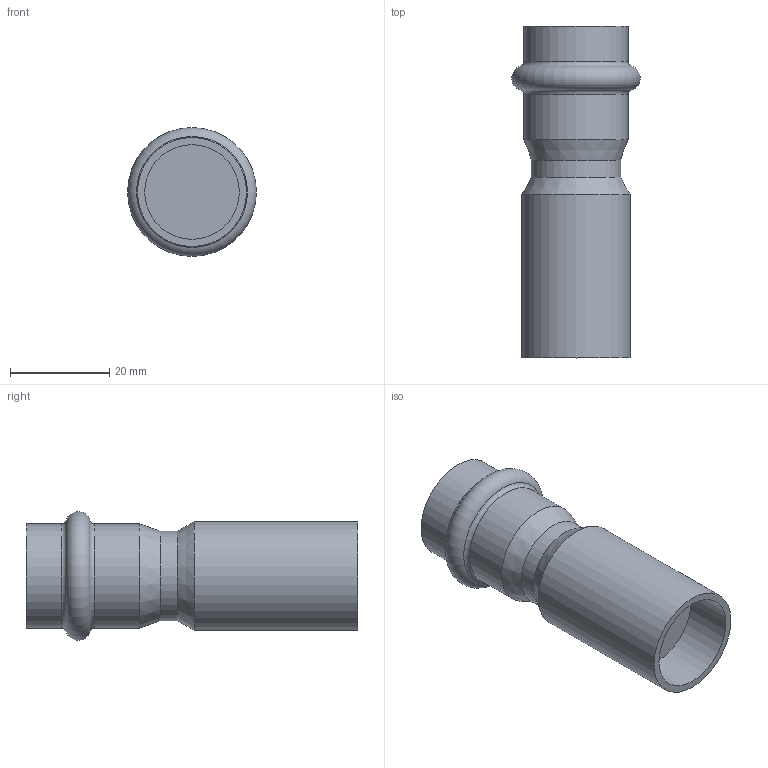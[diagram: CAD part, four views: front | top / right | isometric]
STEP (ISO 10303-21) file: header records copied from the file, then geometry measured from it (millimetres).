
FILE_DESCRIPTION(('STEP AP203'), '1');
FILE_NAME('VTi.905.I.002218', '', ('UNSPECIFIED'), ('UNSPECIFIED'), 'C3D Converter', 'C3D Toolkit', '');
FILE_SCHEMA(('CONFIG_CONTROL_DESIGN'));
Length unit declared in the file: millimetre
Bounding box: 26 x 67 x 26 mm (x, y, z)
Volume: 19690.7 mm3; surface area: 6477 mm2
Topology: 1 solids, 1 shells, 15 faces, 26 edges, 15 vertices
Faces by surface type: cylinder 6, plane 4, torus 3, cone 2
Full cylindrical faces by diameter (mm): 18 x1, 18.3 x1, 19.1 x1, 21 x2, 22 x1
Entity records: 344 total; most frequent: DIRECTION 62, CARTESIAN_POINT 46, AXIS2_PLACEMENT_3D 31, ORIENTED_EDGE 30, EDGE_LOOP 28, FACE_OUTER_BOUND 20, ADVANCED_FACE 15, EDGE_CURVE 15
